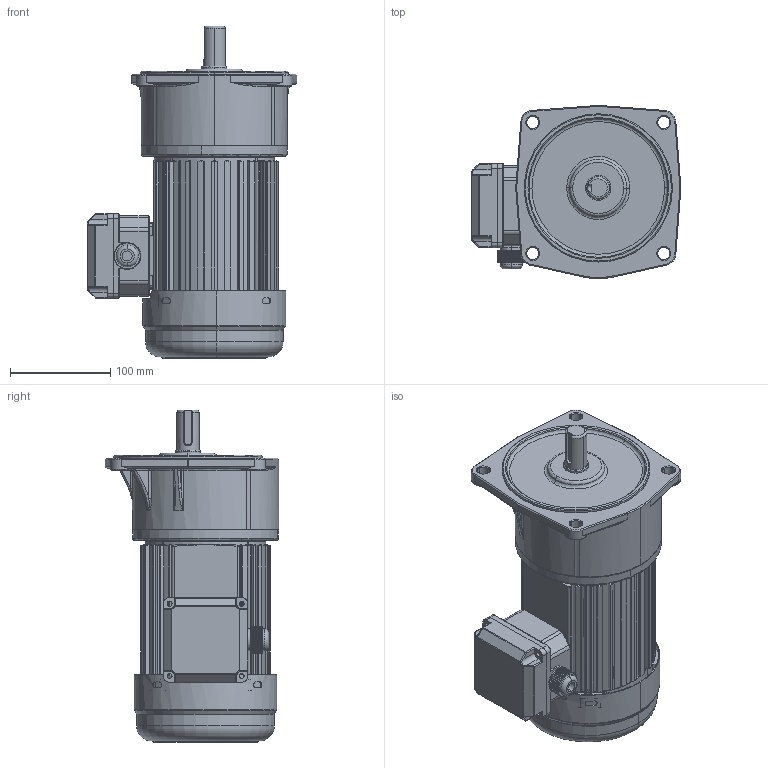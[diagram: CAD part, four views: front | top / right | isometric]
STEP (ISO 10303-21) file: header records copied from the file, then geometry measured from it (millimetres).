
FILE_DESCRIPTION (( 'STEP AP203' ), '1' );
FILE_NAME ('400W饜2#湍价陬蕾宒.STEP', '2020-04-17T05:06:21', ( '' ), ( '' ), 'SwSTEP 2.0', 'SolidWorks 2019', '' );
FILE_SCHEMA (( 'CONFIG_CONTROL_DESIGN' ));
Length unit declared in the file: millimetre
Products named in the file (7): 湍价陬諉盄碟裔; 400W饜2#蕾宒; 400W价陬瑞欶; 蜊輛綴諉盄碟釱3; 400W棠憤迖殤; 400W饜2#湍价陬蕾宒; 諉芛
Assembly tree (6 placements, depth 2):
  400W饜2#湍价陬蕾宒
    400W饜2#蕾宒
    400W棠憤迖殤
    400W价陬瑞欶
    蜊輛綴諉盄碟釱3
    湍价陬諉盄碟裔
    諉芛
Bounding box: 209.48 x 172.99 x 331.5 mm (x, y, z)
Volume: 2086706.8 mm3; surface area: 520297 mm2
Topology: 8 solids, 8 shells, 2511 faces, 6535 edges, 4060 vertices
Faces by surface type: plane 806, cylinder 765, bspline 459, torus 255, cone 160, sphere 66
Entity records: 106062 total; most frequent: CARTESIAN_POINT 47138, ORIENTED_EDGE 12950, DIRECTION 11191, EDGE_CURVE 6475, AXIS2_PLACEMENT_3D 4198, VERTEX_POINT 4060, EDGE_LOOP 2809, LINE 2795
